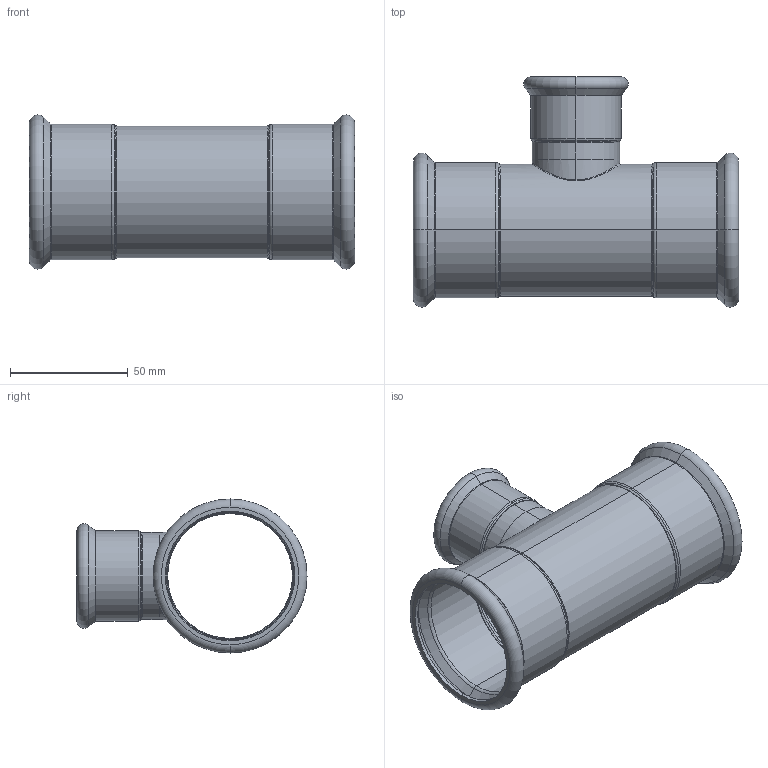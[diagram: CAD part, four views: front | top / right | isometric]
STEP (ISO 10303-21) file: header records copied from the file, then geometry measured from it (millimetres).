
FILE_DESCRIPTION (( 'STEP AP203' ), '1' );
FILE_NAME ('GDA5210.STEP', '2019-01-12T06:10:09', ( '' ), ( '' ), 'SwSTEP 2.0', 'SolidWorks 2015', '' );
FILE_SCHEMA (( 'CONFIG_CONTROL_DESIGN' ));
Length unit declared in the file: millimetre
Products named in the file (3): T(R)-¢ñ-54¡Á35''; T-ｉ-01-35; GDA5210
Assembly tree (2 placements, depth 2):
  GDA5210
    T(R)-¢ñ-54¡Á35''
    T-ｉ-01-35
Bounding box: 138 x 97.69 x 65.39 mm (x, y, z)
Volume: 44681.5 mm3; surface area: 60608 mm2
Topology: 2 solids, 2 shells, 114 faces, 234 edges, 128 vertices
Faces by surface type: torus 48, cylinder 30, cone 24, plane 8, bspline 4
Entity records: 4430 total; most frequent: CARTESIAN_POINT 1640, DIRECTION 620, ORIENTED_EDGE 468, AXIS2_PLACEMENT_3D 283, EDGE_CURVE 234, CIRCLE 168, VERTEX_POINT 128, EDGE_LOOP 124
